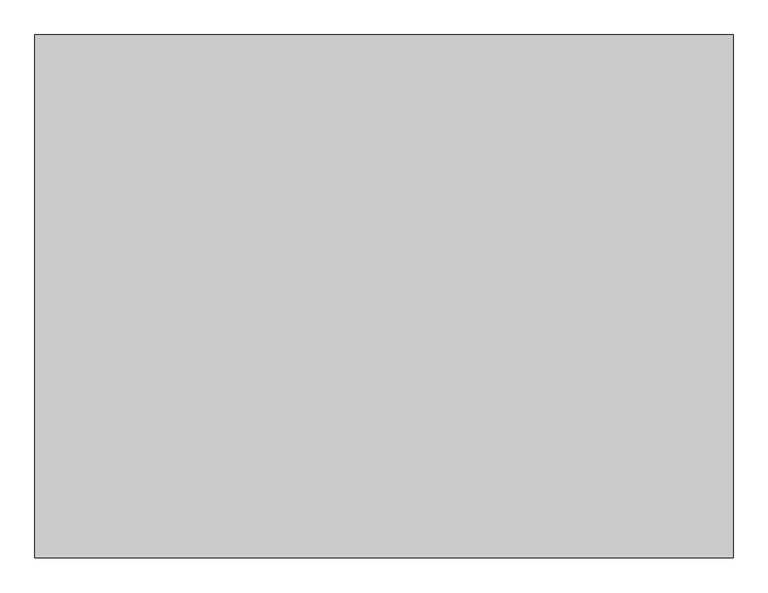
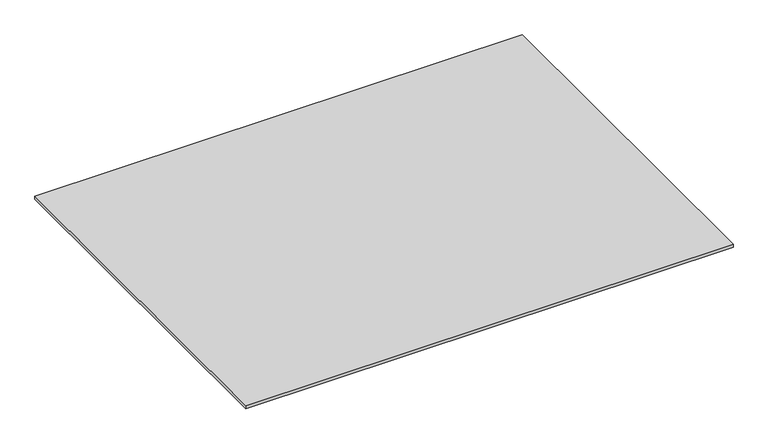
"""IFC4 building model written with IfcOpenShell, lengths in millimetres: proxy geometry, AQUAPANEL Tape (10 cm) : AQUAPANEL Tape (10 cm)."""

import ifcopenshell
import ifcopenshell.guid

model = None  # the IFC model being written
_history = None  # IfcOwnerHistory: only IFC2X3 demands one
_inside = {}  # id of a spatial element -> (the spatial element, [elements in it])
_under = {}  # id of a project, library or spatial element -> (it, [spatial elements below it])
_declared = {}  # id of a project -> (the project, [libraries it declares])
_typed = {}  # id of a type object -> (the type object, [elements of that type])
_made_of = {}  # id of a material, layer set ... -> (it, [elements and type objects made of it])


def new_model(schema):
    """Start an empty IFC model of exactly this schema.

    Asked for "IFC4X3", IfcOpenShell would pick the latest addendum, in which some entities
    have other attributes; the version numbers below select the first issue.
    IFC2X3 requires an IfcOwnerHistory on every rooted entity: one is made here for all.
    """
    global model, _history
    if schema == "IFC4X3":
        model = ifcopenshell.file(schema_version=(4, 3, 0, 0))
    else:
        model = ifcopenshell.file(schema=schema)
    _inside.clear()
    _under.clear()
    _declared.clear()
    _typed.clear()
    _made_of.clear()
    _history = None
    if model.schema == "IFC2X3":
        org = make("IfcOrganization", Name="unknown")
        user = make(
            "IfcPersonAndOrganization",
            ThePerson=make("IfcPerson", FamilyName="unknown"),
            TheOrganization=org,
        )
        app = make(
            "IfcApplication",
            ApplicationDeveloper=org,
            Version="unknown",
            ApplicationFullName="unknown",
            ApplicationIdentifier="unknown",
        )
        _history = make(
            "IfcOwnerHistory",
            OwningUser=user,
            OwningApplication=app,
            ChangeAction="ADDED",
            CreationDate=0,
        )
    return model


def make(cls, **values):
    """One entity of the class cls with the attributes given. An attribute that is None is left unset."""
    return model.create_entity(
        cls, **{name: value for name, value in values.items() if value is not None}
    )


def rooted(cls, **values):
    """An entity with a GlobalId (a new one), such as an element, a storey or a relation."""
    return make(cls, GlobalId=ifcopenshell.guid.new(), OwnerHistory=_history, **values)


def si_unit(unit_type, name, prefix=None):
    """IfcSIUnit, for example si_unit("LENGTHUNIT", "METRE", prefix="MILLI")."""
    return make("IfcSIUnit", UnitType=unit_type, Prefix=prefix, Name=name)


def assignment(units):
    """IfcUnitAssignment: the units of a project."""
    return None if units is None else make("IfcUnitAssignment", Units=units)


def point(xyz):
    """IfcCartesianPoint."""
    return None if xyz is None else make("IfcCartesianPoint", Coordinates=xyz)


def direction(xyz):
    """IfcDirection."""
    return None if xyz is None else make("IfcDirection", DirectionRatios=xyz)


def frame(location, z_axis=None, x_axis=None):
    """IfcAxis2Placement3D, a coordinate frame: its origin and axes. An axis left out is left unset."""
    return make(
        "IfcAxis2Placement3D",
        Location=point(location),
        Axis=direction(z_axis),
        RefDirection=direction(x_axis),
    )


def origin():
    """The frame at (0, 0, 0) with its axes left unset."""
    return frame((0.0, 0.0, 0.0))


def origin_with_axes():
    """The frame at (0, 0, 0) with the z axis (0, 0, 1) and the x axis (1, 0, 0) written out."""
    return frame((0.0, 0.0, 0.0), z_axis=(0.0, 0.0, 1.0), x_axis=(1.0, 0.0, 0.0))


def place(relative_to, where):
    """IfcLocalPlacement: puts the frame where relative to a parent placement (None: the world)."""
    return make(
        "IfcLocalPlacement", PlacementRelTo=relative_to, RelativePlacement=where
    )


def context(
    kind, dimensions, precision=None, world=None, true_north=None, identifier=None
):
    """IfcGeometricRepresentationContext, for example the 3D "Model" context."""
    return make(
        "IfcGeometricRepresentationContext",
        ContextIdentifier=identifier,
        ContextType=kind,
        CoordinateSpaceDimension=dimensions,
        Precision=precision,
        WorldCoordinateSystem=world,
        TrueNorth=true_north,
    )


def project(units=None, contexts=None):
    """IfcProject with its units and contexts."""
    return rooted(
        "IfcProject",
        Name="project",
        RepresentationContexts=contexts,
        UnitsInContext=assignment(units),
    )


def spatial(cls, under=None, at=None, **own):
    """A site, building, storey or space (cls), placed at a placement, below another one or the project."""
    s = rooted(cls, ObjectPlacement=at, **own)
    if under is not None:
        _under.setdefault(under.id(), (under, []))[1].append(s)
    return s


def polyline(points):
    """IfcPolyline through the points."""
    return make("IfcPolyline", Points=[point(p) for p in points])


def outline(outer, holes=None, kind="AREA"):
    """IfcArbitraryClosedProfileDef: a profile drawn as a closed curve; with holes, ...WithVoids."""
    if holes is None:
        return make("IfcArbitraryClosedProfileDef", ProfileType=kind, OuterCurve=outer)
    return make(
        "IfcArbitraryProfileDefWithVoids",
        ProfileType=kind,
        OuterCurve=outer,
        InnerCurves=holes,
    )


def extrude(swept, where, along, depth):
    """IfcExtrudedAreaSolid: the profile swept, set in the frame where, extruded along a direction by depth."""
    return make(
        "IfcExtrudedAreaSolid",
        SweptArea=swept,
        Position=where,
        ExtrudedDirection=direction(along),
        Depth=depth,
    )


def shape(context_of_items, identifier, shape_type, items):
    """IfcShapeRepresentation: the items that make up one representation, for example the "Body"."""
    return make(
        "IfcShapeRepresentation",
        ContextOfItems=context_of_items,
        RepresentationIdentifier=identifier,
        RepresentationType=shape_type,
        Items=items,
    )


def source(mapping_origin, context_of_items, identifier, shape_type, items):
    """IfcRepresentationMap: a shape defined once, which mapped items show again and again."""
    return make(
        "IfcRepresentationMap",
        MappingOrigin=mapping_origin,
        MappedRepresentation=shape(context_of_items, identifier, shape_type, items),
    )


def transform(
    local_origin,
    x_axis=None,
    y_axis=None,
    z_axis=None,
    scale=None,
    scale2=None,
    scale3=None,
    uniform=True,
):
    """IfcCartesianTransformationOperator3D, or its non-uniform kind. x_axis, y_axis, z_axis: its Axis1, 2, 3."""
    if uniform:
        return make(
            "IfcCartesianTransformationOperator3D",
            Axis1=direction(x_axis),
            Axis2=direction(y_axis),
            LocalOrigin=point(local_origin),
            Scale=scale,
            Axis3=direction(z_axis),
        )
    return make(
        "IfcCartesianTransformationOperator3DnonUniform",
        Axis1=direction(x_axis),
        Axis2=direction(y_axis),
        LocalOrigin=point(local_origin),
        Scale=scale,
        Axis3=direction(z_axis),
        Scale2=scale2,
        Scale3=scale3,
    )


def mapped(mapping_source, mapping_target):
    """IfcMappedItem: shows the shape of a source again, moved by a transform."""
    return make(
        "IfcMappedItem", MappingSource=mapping_source, MappingTarget=mapping_target
    )


def made_of(thing, what):
    """Note that an element or type object is made of a material, layer set ...; save() writes the relation."""
    if what is not None:
        _made_of.setdefault(what.id(), (what, []))[1].append(thing)
    return thing


def element(
    cls,
    number,
    at=None,
    inside=None,
    cuts=None,
    type_object=None,
    material=None,
    context=None,
    identifier="Body",
    shape_type=None,
    held_by="IfcProductDefinitionShape",
    body=None,
    shapes=None,
    **own,
):
    """One element of the class cls, such as IfcWall. Its Tag is "e" and its number.

    at: its placement. inside: the storey or other place that contains it. cuts: it is an
    opening in that element (IfcRelVoidsElement). A single representation is given by context,
    identifier, shape_type and body (its items); several are given by shapes. held_by: the class
    of the entity that holds the representations. save() writes the other relations.
    """
    e = rooted(cls, Tag="e%d" % number, ObjectPlacement=at, **own)
    if body is not None:
        shapes = [shape(context, identifier, shape_type, body)]
    if shapes is not None:
        e.Representation = make(held_by, Representations=shapes)
    if inside is not None:
        _inside.setdefault(inside.id(), (inside, []))[1].append(e)
    if cuts is not None:
        rooted(
            "IfcRelVoidsElement", RelatingBuildingElement=cuts, RelatedOpeningElement=e
        )
    if type_object is not None:
        _typed.setdefault(type_object.id(), (type_object, []))[1].append(e)
    return made_of(e, material)


def aggregate(whole, parts):
    """IfcRelAggregates: a whole, such as a stair, and the parts it consists of."""
    return rooted("IfcRelAggregates", RelatingObject=whole, RelatedObjects=parts)


def save(model, path):
    """Write the relations noted so far, then the file.

    IfcRelAggregates (storeys below a building ...), IfcRelContainedInSpatialStructure (elements
    in a storey), IfcRelDefinesByType, IfcRelAssociatesMaterial and IfcRelDeclares: one each for
    every whole, place, type object, material and project.
    """
    for whole, parts in _under.values():
        aggregate(whole, parts)
    for where, things in _inside.values():
        rooted(
            "IfcRelContainedInSpatialStructure",
            RelatedElements=things,
            RelatingStructure=where,
        )
    for kind, things in _typed.values():
        rooted("IfcRelDefinesByType", RelatedObjects=things, RelatingType=kind)
    for what, things in _made_of.values():
        rooted("IfcRelAssociatesMaterial", RelatedObjects=things, RelatingMaterial=what)
    for by, libraries in _declared.values():
        rooted("IfcRelDeclares", RelatingContext=by, RelatedDefinitions=libraries)
    model.write(path)


def generic_models_42c16032(model_context):
    return source(origin(), model_context, "Body", "SweptSolid", [
        extrude(outline(polyline([(18546.6229098, 16778.6269371), (18546.6229098, 15894.6921123), (17366.5503193, 15894.6921123), (17366.5503193, 16778.6269371), (18546.6229098, 16778.6269371)])), origin_with_axes(), (0.0, 0.0, 1.0), 8.0),
    ])


if __name__ == "__main__":
    model = new_model("IFC4")
    model_context = context("Model", 3, world=origin())
    ifc_project = project(units=[si_unit("LENGTHUNIT", "METRE", prefix="MILLI")], contexts=[model_context])
    site = spatial("IfcSite", under=ifc_project)
    building = spatial("IfcBuilding", under=site)
    placement = place(None, origin())
    generic_models_shape = generic_models_42c16032(model_context)
    element("IfcBuildingElementProxy", 1, Name="AQUAPANEL Tape (10 cm) : AQUAPANEL Tape (10 cm)", ObjectType="AQUAPANEL Tape (10 cm) : AQUAPANEL Tape (10 cm)", at=placement, inside=building, context=model_context, shape_type="MappedRepresentation", body=[
        mapped(generic_models_shape, transform((0.0, 0.0, 0.0), x_axis=(1.0, 0.0, 0.0), y_axis=(0.0, 1.0, 0.0), z_axis=(0.0, 0.0, 1.0))),
    ])
    save(model, "model.ifc")
